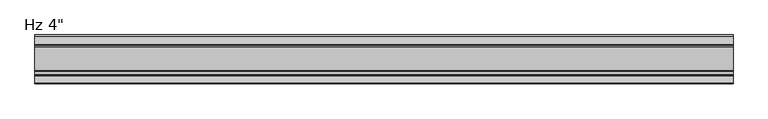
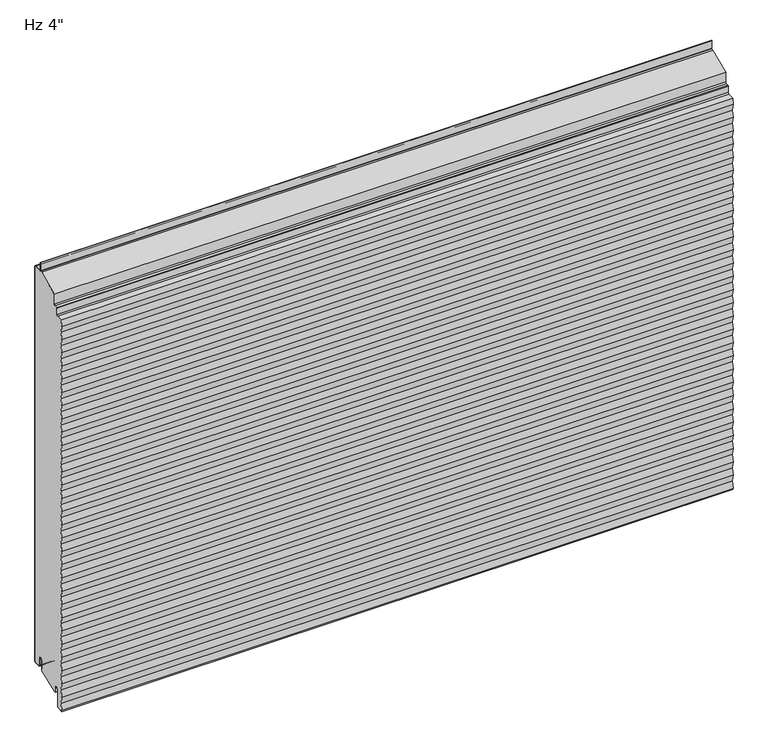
"""IFC4 building model written with IfcOpenShell, lengths in millimetres: plate geometry."""

import ifcopenshell
import ifcopenshell.guid

model = None  # the IFC model being written
_history = None  # IfcOwnerHistory: only IFC2X3 demands one
_inside = {}  # id of a spatial element -> (the spatial element, [elements in it])
_under = {}  # id of a project, library or spatial element -> (it, [spatial elements below it])
_declared = {}  # id of a project -> (the project, [libraries it declares])
_typed = {}  # id of a type object -> (the type object, [elements of that type])
_made_of = {}  # id of a material, layer set ... -> (it, [elements and type objects made of it])


def new_model(schema):
    """Start an empty IFC model of exactly this schema.

    Asked for "IFC4X3", IfcOpenShell would pick the latest addendum, in which some entities
    have other attributes; the version numbers below select the first issue.
    IFC2X3 requires an IfcOwnerHistory on every rooted entity: one is made here for all.
    """
    global model, _history
    if schema == "IFC4X3":
        model = ifcopenshell.file(schema_version=(4, 3, 0, 0))
    else:
        model = ifcopenshell.file(schema=schema)
    _inside.clear()
    _under.clear()
    _declared.clear()
    _typed.clear()
    _made_of.clear()
    _history = None
    if model.schema == "IFC2X3":
        org = make("IfcOrganization", Name="unknown")
        user = make(
            "IfcPersonAndOrganization",
            ThePerson=make("IfcPerson", FamilyName="unknown"),
            TheOrganization=org,
        )
        app = make(
            "IfcApplication",
            ApplicationDeveloper=org,
            Version="unknown",
            ApplicationFullName="unknown",
            ApplicationIdentifier="unknown",
        )
        _history = make(
            "IfcOwnerHistory",
            OwningUser=user,
            OwningApplication=app,
            ChangeAction="ADDED",
            CreationDate=0,
        )
    return model


def make(cls, **values):
    """One entity of the class cls with the attributes given. An attribute that is None is left unset."""
    return model.create_entity(
        cls, **{name: value for name, value in values.items() if value is not None}
    )


def rooted(cls, **values):
    """An entity with a GlobalId (a new one), such as an element, a storey or a relation."""
    return make(cls, GlobalId=ifcopenshell.guid.new(), OwnerHistory=_history, **values)


def si_unit(unit_type, name, prefix=None):
    """IfcSIUnit, for example si_unit("LENGTHUNIT", "METRE", prefix="MILLI")."""
    return make("IfcSIUnit", UnitType=unit_type, Prefix=prefix, Name=name)


def assignment(units):
    """IfcUnitAssignment: the units of a project."""
    return None if units is None else make("IfcUnitAssignment", Units=units)


def point(xyz):
    """IfcCartesianPoint."""
    return None if xyz is None else make("IfcCartesianPoint", Coordinates=xyz)


def direction(xyz):
    """IfcDirection."""
    return None if xyz is None else make("IfcDirection", DirectionRatios=xyz)


def frame(location, z_axis=None, x_axis=None):
    """IfcAxis2Placement3D, a coordinate frame: its origin and axes. An axis left out is left unset."""
    return make(
        "IfcAxis2Placement3D",
        Location=point(location),
        Axis=direction(z_axis),
        RefDirection=direction(x_axis),
    )


def frame_2d(location, x_axis=None):
    """IfcAxis2Placement2D, a coordinate frame in the plane: its origin and x axis."""
    return make(
        "IfcAxis2Placement2D", Location=point(location), RefDirection=direction(x_axis)
    )


def origin():
    """The frame at (0, 0, 0) with its axes left unset."""
    return frame((0.0, 0.0, 0.0))


def place(relative_to, where):
    """IfcLocalPlacement: puts the frame where relative to a parent placement (None: the world)."""
    return make(
        "IfcLocalPlacement", PlacementRelTo=relative_to, RelativePlacement=where
    )


def context(
    kind, dimensions, precision=None, world=None, true_north=None, identifier=None
):
    """IfcGeometricRepresentationContext, for example the 3D "Model" context."""
    return make(
        "IfcGeometricRepresentationContext",
        ContextIdentifier=identifier,
        ContextType=kind,
        CoordinateSpaceDimension=dimensions,
        Precision=precision,
        WorldCoordinateSystem=world,
        TrueNorth=true_north,
    )


def project(units=None, contexts=None):
    """IfcProject with its units and contexts."""
    return rooted(
        "IfcProject",
        Name="project",
        RepresentationContexts=contexts,
        UnitsInContext=assignment(units),
    )


def spatial(cls, under=None, at=None, **own):
    """A site, building, storey or space (cls), placed at a placement, below another one or the project."""
    s = rooted(cls, ObjectPlacement=at, **own)
    if under is not None:
        _under.setdefault(under.id(), (under, []))[1].append(s)
    return s


def polyline(points):
    """IfcPolyline through the points."""
    return make("IfcPolyline", Points=[point(p) for p in points])


def circle_curve(where, radius):
    """IfcCircle in the frame where."""
    return make("IfcCircle", Position=where, Radius=radius)


def trimmed(basis, trim1, trim2, sense, master):
    """IfcTrimmedCurve: the piece of a basis curve between two trims."""
    return make(
        "IfcTrimmedCurve",
        BasisCurve=basis,
        Trim1=trim1,
        Trim2=trim2,
        SenseAgreement=sense,
        MasterRepresentation=master,
    )


def segment(curve, same_sense, transition):
    """IfcCompositeCurveSegment."""
    return make(
        "IfcCompositeCurveSegment",
        Transition=transition,
        SameSense=same_sense,
        ParentCurve=curve,
    )


def composite_curve(segments, self_intersect=None):
    """IfcCompositeCurve: segments joined end to end."""
    return make("IfcCompositeCurve", Segments=segments, SelfIntersect=self_intersect)


def outline(outer, holes=None, kind="AREA"):
    """IfcArbitraryClosedProfileDef: a profile drawn as a closed curve; with holes, ...WithVoids."""
    if holes is None:
        return make("IfcArbitraryClosedProfileDef", ProfileType=kind, OuterCurve=outer)
    return make(
        "IfcArbitraryProfileDefWithVoids",
        ProfileType=kind,
        OuterCurve=outer,
        InnerCurves=holes,
    )


def extrude(swept, where, along, depth):
    """IfcExtrudedAreaSolid: the profile swept, set in the frame where, extruded along a direction by depth."""
    return make(
        "IfcExtrudedAreaSolid",
        SweptArea=swept,
        Position=where,
        ExtrudedDirection=direction(along),
        Depth=depth,
    )


def shape(context_of_items, identifier, shape_type, items):
    """IfcShapeRepresentation: the items that make up one representation, for example the "Body"."""
    return make(
        "IfcShapeRepresentation",
        ContextOfItems=context_of_items,
        RepresentationIdentifier=identifier,
        RepresentationType=shape_type,
        Items=items,
    )


def source(mapping_origin, context_of_items, identifier, shape_type, items):
    """IfcRepresentationMap: a shape defined once, which mapped items show again and again."""
    return make(
        "IfcRepresentationMap",
        MappingOrigin=mapping_origin,
        MappedRepresentation=shape(context_of_items, identifier, shape_type, items),
    )


def transform(
    local_origin,
    x_axis=None,
    y_axis=None,
    z_axis=None,
    scale=None,
    scale2=None,
    scale3=None,
    uniform=True,
):
    """IfcCartesianTransformationOperator3D, or its non-uniform kind. x_axis, y_axis, z_axis: its Axis1, 2, 3."""
    if uniform:
        return make(
            "IfcCartesianTransformationOperator3D",
            Axis1=direction(x_axis),
            Axis2=direction(y_axis),
            LocalOrigin=point(local_origin),
            Scale=scale,
            Axis3=direction(z_axis),
        )
    return make(
        "IfcCartesianTransformationOperator3DnonUniform",
        Axis1=direction(x_axis),
        Axis2=direction(y_axis),
        LocalOrigin=point(local_origin),
        Scale=scale,
        Axis3=direction(z_axis),
        Scale2=scale2,
        Scale3=scale3,
    )


def mapped(mapping_source, mapping_target):
    """IfcMappedItem: shows the shape of a source again, moved by a transform."""
    return make(
        "IfcMappedItem", MappingSource=mapping_source, MappingTarget=mapping_target
    )


def made_of(thing, what):
    """Note that an element or type object is made of a material, layer set ...; save() writes the relation."""
    if what is not None:
        _made_of.setdefault(what.id(), (what, []))[1].append(thing)
    return thing


def element(
    cls,
    number,
    at=None,
    inside=None,
    cuts=None,
    type_object=None,
    material=None,
    context=None,
    identifier="Body",
    shape_type=None,
    held_by="IfcProductDefinitionShape",
    body=None,
    shapes=None,
    **own,
):
    """One element of the class cls, such as IfcWall. Its Tag is "e" and its number.

    at: its placement. inside: the storey or other place that contains it. cuts: it is an
    opening in that element (IfcRelVoidsElement). A single representation is given by context,
    identifier, shape_type and body (its items); several are given by shapes. held_by: the class
    of the entity that holds the representations. save() writes the other relations.
    """
    e = rooted(cls, Tag="e%d" % number, ObjectPlacement=at, **own)
    if body is not None:
        shapes = [shape(context, identifier, shape_type, body)]
    if shapes is not None:
        e.Representation = make(held_by, Representations=shapes)
    if inside is not None:
        _inside.setdefault(inside.id(), (inside, []))[1].append(e)
    if cuts is not None:
        rooted(
            "IfcRelVoidsElement", RelatingBuildingElement=cuts, RelatedOpeningElement=e
        )
    if type_object is not None:
        _typed.setdefault(type_object.id(), (type_object, []))[1].append(e)
    return made_of(e, material)


def aggregate(whole, parts):
    """IfcRelAggregates: a whole, such as a stair, and the parts it consists of."""
    return rooted("IfcRelAggregates", RelatingObject=whole, RelatedObjects=parts)


def save(model, path):
    """Write the relations noted so far, then the file.

    IfcRelAggregates (storeys below a building ...), IfcRelContainedInSpatialStructure (elements
    in a storey), IfcRelDefinesByType, IfcRelAssociatesMaterial and IfcRelDeclares: one each for
    every whole, place, type object, material and project.
    """
    for whole, parts in _under.values():
        aggregate(whole, parts)
    for where, things in _inside.values():
        rooted(
            "IfcRelContainedInSpatialStructure",
            RelatedElements=things,
            RelatingStructure=where,
        )
    for kind, things in _typed.values():
        rooted("IfcRelDefinesByType", RelatedObjects=things, RelatingType=kind)
    for what, things in _made_of.values():
        rooted("IfcRelAssociatesMaterial", RelatedObjects=things, RelatingMaterial=what)
    for by, libraries in _declared.values():
        rooted("IfcRelDeclares", RelatingContext=by, RelatedDefinitions=libraries)
    model.write(path)


def plate_baafb094(model_context):
    return source(origin(), model_context, "Body", "SweptSolid", [
        extrude(outline(composite_curve([segment(trimmed(circle_curve(frame_2d((-21.43125, 19.05)), 4.96875), [point((-16.4625, 19.05))], [point((-26.4, 19.05))], True, "CARTESIAN"), True, "CONTINUOUS"), segment(polyline([(-26.4, 19.05), (-26.4, -3.1323422), (-74.6157227, -23.01875), (-76.2, -23.01875), (-76.2, -13.5080174), (-76.99375, -13.5080174), (-76.7875, -11.9205174)]), True, "CONTINUOUS"), segment(trimmed(circle_curve(frame_2d((-81.75625, -11.9205174)), 4.96875), [point((-76.7875, -11.9205174))], [point((-86.725, -11.9205174))], True, "CARTESIAN"), True, "CONTINUOUS"), segment(polyline([(-86.725, -11.9205174), (-86.725, -50.1038221)]), True, "CONTINUOUS"), segment(trimmed(circle_curve(frame_2d((-88.10625, -50.1038221)), 1.38125), [point((-86.725, -50.1038221))], [point((-88.033961, -51.4831791))], False, "CARTESIAN"), True, "CONTINUOUS"), segment(polyline([(-88.033961, -51.4831791), (-101.2062471, -52.1735094), (-101.7378194, -48.8511825), (-99.2994194, -33.6111825), (-101.7378194, -18.3711825), (-99.2994194, -3.1311825), (-101.7378194, 12.1088175), (-99.2994194, 27.3488175), (-101.7378194, 42.5888175), (-99.2994194, 57.8288175), (-101.7378194, 73.0688175), (-99.2994194, 88.3088175), (-101.7378194, 103.5488175), (-99.2994194, 118.7888175), (-101.7378194, 134.0288175), (-99.2994194, 149.2688175), (-101.7378194, 164.5088175), (-99.2994194, 179.7488175), (-101.7378194, 194.9888175), (-99.2994194, 210.2288175), (-101.7378194, 225.4688175), (-99.2994194, 240.7088175), (-101.7378194, 255.9488175), (-99.2994194, 271.1888175), (-101.7378194, 286.4288175), (-99.2994194, 301.6688175), (-101.7378194, 316.9088175), (-99.2994194, 332.1488175), (-101.7378194, 347.3888175), (-99.2994194, 362.6288175), (-101.7378194, 377.8688175), (-99.2994194, 393.1088175), (-101.7378194, 408.3488175), (-99.2994194, 423.5888175), (-101.7378194, 438.8288175), (-99.2994194, 454.0688175), (-101.7378194, 469.3088175), (-99.2994194, 484.5488175), (-101.7378194, 499.7888175), (-99.2994194, 515.0288175), (-101.7378194, 530.2688175), (-99.2994194, 545.5088175), (-101.7378194, 560.7488175), (-99.2994194, 575.9888175), (-101.7378194, 591.2288175), (-99.2994194, 606.4688175), (-101.7378194, 621.7088175), (-99.2994194, 636.9488175), (-101.7378194, 652.1888175), (-99.2994194, 667.4288175), (-101.7378194, 682.6688175), (-99.2994194, 697.9088175), (-101.7378194, 713.1488175), (-99.2994194, 728.3888175), (-101.7378194, 743.6288175), (-99.2994194, 758.8688175), (-101.7378194, 774.1088175), (-99.2994194, 789.3488175), (-101.7378194, 804.5888175), (-99.2994194, 819.8288175), (-101.7054086, 834.86625), (-99.6673048, 847.6043985), (-85.5895807, 848.3421807)]), True, "CONTINUOUS"), segment(trimmed(circle_curve(frame_2d((-85.725, 850.9261347)), 2.5875), [point((-85.5895807, 848.3421807))], [point((-83.1375, 850.9261347))], True, "CARTESIAN"), True, "CONTINUOUS"), segment(polyline([(-83.1375, 850.9261347), (-83.1375, 865.0824411)]), True, "CONTINUOUS"), segment(trimmed(circle_curve(frame_2d((-81.75625, 865.0824411)), 1.38125), [point((-83.1375, 865.0824411))], [point((-81.828539, 866.4617981))], False, "CARTESIAN"), True, "CONTINUOUS"), segment(polyline([(-81.828539, 866.4617981), (-76.0645807, 866.7638744)]), True, "CONTINUOUS"), segment(trimmed(circle_curve(frame_2d((-76.2, 869.3478283)), 2.5875), [point((-76.0645807, 866.7638744))], [point((-73.6125, 869.3478283))], True, "CARTESIAN"), True, "CONTINUOUS"), segment(polyline([(-73.6125, 869.3478283), (-73.6125, 891.7892934), (-24.9057308, 912.60625), (-2.38125, 912.60625)]), True, "CONTINUOUS"), segment(trimmed(circle_curve(frame_2d((-2.38125, 911.225)), 1.38125), [point((-2.38125, 912.60625))], [point((-1.0, 911.225))], False, "CARTESIAN"), True, "CONTINUOUS"), segment(polyline([(-1.0, 911.225), (-1.0, 3.175)]), True, "CONTINUOUS"), segment(trimmed(circle_curve(frame_2d((-2.38125, 3.175)), 1.38125), [point((-1.0, 3.175))], [point((-2.38125, 1.79375))], False, "CARTESIAN"), True, "CONTINUOUS"), segment(polyline([(-2.38125, 1.79375), (-15.08125, 1.79375)]), True, "CONTINUOUS"), segment(trimmed(circle_curve(frame_2d((-15.08125, 3.175)), 1.38125), [point((-15.08125, 1.79375))], [point((-16.4625, 3.175))], False, "CARTESIAN"), True, "CONTINUOUS"), segment(polyline([(-16.4625, 3.175), (-16.4625, 19.05)]), True, "CONTINUOUS")], self_intersect=False)), frame((-730.0, 0.0, 0.0), z_axis=(1.0, 0.0, 0.0), x_axis=(0.0, 1.0, 0.0)), (0.0, 0.0, 1.0), 1460.0),
        extrude(outline(composite_curve([segment(polyline([(-25.4, 0.79375), (-26.4, 0.79375), (-26.4, 19.05)]), True, "CONTINUOUS"), segment(trimmed(circle_curve(frame_2d((-21.43125, 19.05)), 4.96875), [point((-26.4, 19.05))], [point((-16.4625, 19.05))], False, "CARTESIAN"), True, "CONTINUOUS"), segment(polyline([(-16.4625, 19.05), (-16.4625, 3.175)]), True, "CONTINUOUS"), segment(trimmed(circle_curve(frame_2d((-15.08125, 3.175)), 1.38125), [point((-16.4625, 3.175))], [point((-15.08125, 1.79375))], True, "CARTESIAN"), True, "CONTINUOUS"), segment(polyline([(-15.08125, 1.79375), (-2.38125, 1.79375)]), True, "CONTINUOUS"), segment(trimmed(circle_curve(frame_2d((-2.38125, 3.175)), 1.38125), [point((-2.38125, 1.79375))], [point((-1.0, 3.175))], True, "CARTESIAN"), True, "CONTINUOUS"), segment(polyline([(-1.0, 3.175), (-1.0, 911.225)]), True, "CONTINUOUS"), segment(trimmed(circle_curve(frame_2d((-2.38125, 911.225)), 1.38125), [point((-1.0, 911.225))], [point((-2.38125, 912.60625))], True, "CARTESIAN"), True, "CONTINUOUS"), segment(polyline([(-2.38125, 912.60625), (-19.446875, 912.60625)]), True, "CONTINUOUS"), segment(trimmed(circle_curve(frame_2d((-19.446875, 915.19375)), 2.5875), [point((-19.446875, 912.60625))], [point((-22.034375, 915.19375))], False, "CARTESIAN"), True, "CONTINUOUS"), segment(polyline([(-22.034375, 915.19375), (-22.034375, 932.65625), (-21.034375, 932.65625), (-21.034375, 915.19375)]), True, "CONTINUOUS"), segment(trimmed(circle_curve(frame_2d((-19.446875, 915.19375)), 1.5875), [point((-21.034375, 915.19375))], [point((-19.446875, 913.60625))], True, "CARTESIAN"), True, "CONTINUOUS"), segment(polyline([(-19.446875, 913.60625), (-2.38125, 913.60625)]), True, "CONTINUOUS"), segment(trimmed(circle_curve(frame_2d((-2.38125, 911.225)), 2.38125), [point((-2.38125, 913.60625))], [point((0.0, 911.225))], False, "CARTESIAN"), True, "CONTINUOUS"), segment(polyline([(0.0, 911.225), (0.0, 3.175)]), True, "CONTINUOUS"), segment(trimmed(circle_curve(frame_2d((-2.38125, 3.175)), 2.38125), [point((0.0, 3.175))], [point((-2.38125, 0.79375))], False, "CARTESIAN"), True, "CONTINUOUS"), segment(polyline([(-2.38125, 0.79375), (-15.08125, 0.79375)]), True, "CONTINUOUS"), segment(trimmed(circle_curve(frame_2d((-15.08125, 3.175)), 2.38125), [point((-15.08125, 0.79375))], [point((-17.4625, 3.175))], False, "CARTESIAN"), True, "CONTINUOUS"), segment(polyline([(-17.4625, 3.175), (-17.4625, 19.05)]), True, "CONTINUOUS"), segment(trimmed(circle_curve(frame_2d((-21.43125, 19.05)), 3.96875), [point((-17.4625, 19.05))], [point((-25.4, 19.05))], True, "CARTESIAN"), True, "CONTINUOUS"), segment(polyline([(-25.4, 19.05), (-25.4, 0.79375)]), True, "CONTINUOUS")], self_intersect=False)), frame((-730.0, 0.0, 0.0), z_axis=(1.0, 0.0, 0.0), x_axis=(0.0, 1.0, 0.0)), (0.0, 0.0, 1.0), 1460.0),
    ])


if __name__ == "__main__":
    model = new_model("IFC4")
    model_context = context("Model", 3, world=origin())
    ifc_project = project(units=[si_unit("LENGTHUNIT", "METRE", prefix="MILLI")], contexts=[model_context])
    site = spatial("IfcSite", under=ifc_project)
    building = spatial("IfcBuilding", under=site)
    placement = place(None, origin())
    plate_shape = plate_baafb094(model_context)
    element("IfcPlate", 1, ObjectType="KIP-36-DWHR-R19-CP-Hz-S : Hz 4\"", at=placement, inside=building, context=model_context, shape_type="MappedRepresentation", body=[
        mapped(plate_shape, transform((0.0, 0.0, 0.0), x_axis=(1.0, 0.0, 0.0), y_axis=(0.0, 1.0, 0.0), z_axis=(0.0, 0.0, 1.0))),
    ])
    save(model, "model.ifc")
